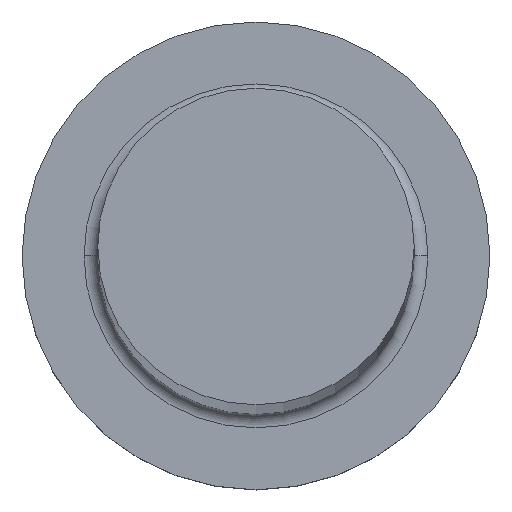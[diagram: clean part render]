
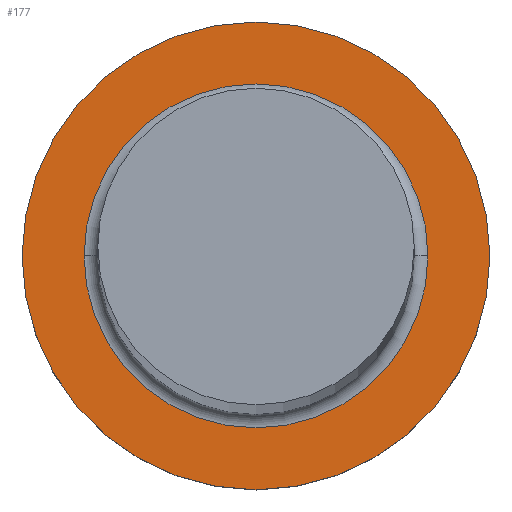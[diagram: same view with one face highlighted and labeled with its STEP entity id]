
A CAD part, top view. The second image highlights one B-rep face of the part: STEP entity #177.
In plain terms, the highlighted planar face has unit normal (0, 0, 1).
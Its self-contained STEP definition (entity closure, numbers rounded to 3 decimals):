
#2 = CARTESIAN_POINT ( 'NONE',  ( -6.25, 0., 4. ) ) ;
#5 = FACE_BOUND ( 'NONE', #126, .T. ) ;
#10 = CARTESIAN_POINT ( 'NONE',  ( 0., 0., 4. ) ) ;
#11 = EDGE_CURVE ( 'NONE', #14, #253, #200, .T. ) ;
#14 = VERTEX_POINT ( 'NONE', #197 ) ;
#15 = CARTESIAN_POINT ( 'NONE',  ( -8.5, 0., 4. ) ) ;
#16 = DIRECTION ( 'NONE',  ( -1., 0., 0. ) ) ;
#19 = AXIS2_PLACEMENT_3D ( 'NONE', #199, #162, #257 ) ;
#35 = DIRECTION ( 'NONE',  ( 0., 0., -1. ) ) ;
#37 = CARTESIAN_POINT ( 'NONE',  ( 0., 0., 4. ) ) ;
#40 = VERTEX_POINT ( 'NONE', #15 ) ;
#52 = EDGE_CURVE ( 'NONE', #93, #40, #242, .T. ) ;
#54 = CARTESIAN_POINT ( 'NONE',  ( 0., 0., 4. ) ) ;
#75 = DIRECTION ( 'NONE',  ( -1., 0., 0. ) ) ;
#77 = CARTESIAN_POINT ( 'NONE',  ( 8.5, 0., 4. ) ) ;
#81 = ORIENTED_EDGE ( 'NONE', *, *, #118, .T. ) ;
#82 = DIRECTION ( 'NONE',  ( 0., 0., -1. ) ) ;
#89 = ORIENTED_EDGE ( 'NONE', *, *, #99, .F. ) ;
#93 = VERTEX_POINT ( 'NONE', #77 ) ;
#99 = EDGE_CURVE ( 'NONE', #40, #93, #149, .T. ) ;
#106 = PLANE ( 'NONE',  #169 ) ;
#118 = EDGE_CURVE ( 'NONE', #253, #14, #258, .T. ) ;
#119 = ORIENTED_EDGE ( 'NONE', *, *, #11, .T. ) ;
#126 = EDGE_LOOP ( 'NONE', ( #81, #119 ) ) ;
#136 = AXIS2_PLACEMENT_3D ( 'NONE', #10, #241, #202 ) ;
#141 = FACE_OUTER_BOUND ( 'NONE', #221, .T. ) ;
#147 = ORIENTED_EDGE ( 'NONE', *, *, #52, .F. ) ;
#149 = CIRCLE ( 'NONE', #224, 8.5 ) ;
#162 = DIRECTION ( 'NONE',  ( 0., 0., -1. ) ) ;
#169 = AXIS2_PLACEMENT_3D ( 'NONE', #212, #82, #213 ) ;
#177 = ADVANCED_FACE ( 'NONE', ( #5, #141 ), #106, .F. ) ;
#197 = CARTESIAN_POINT ( 'NONE',  ( 6.25, 0., 4. ) ) ;
#199 = CARTESIAN_POINT ( 'NONE',  ( 0., 0., 4. ) ) ;
#200 = CIRCLE ( 'NONE', #19, 6.25 ) ;
#202 = DIRECTION ( 'NONE',  ( -1., 0., 0. ) ) ;
#212 = CARTESIAN_POINT ( 'NONE',  ( 8.5, 0., 4. ) ) ;
#213 = DIRECTION ( 'NONE',  ( -1., 0., 0. ) ) ;
#221 = EDGE_LOOP ( 'NONE', ( #89, #147 ) ) ;
#224 = AXIS2_PLACEMENT_3D ( 'NONE', #37, #261, #75 ) ;
#239 = AXIS2_PLACEMENT_3D ( 'NONE', #54, #35, #16 ) ;
#241 = DIRECTION ( 'NONE',  ( 0., 0., -1. ) ) ;
#242 = CIRCLE ( 'NONE', #239, 8.5 ) ;
#253 = VERTEX_POINT ( 'NONE', #2 ) ;
#257 = DIRECTION ( 'NONE',  ( -1., 0., 0. ) ) ;
#258 = CIRCLE ( 'NONE', #136, 6.25 ) ;
#261 = DIRECTION ( 'NONE',  ( 0., 0., -1. ) ) ;
